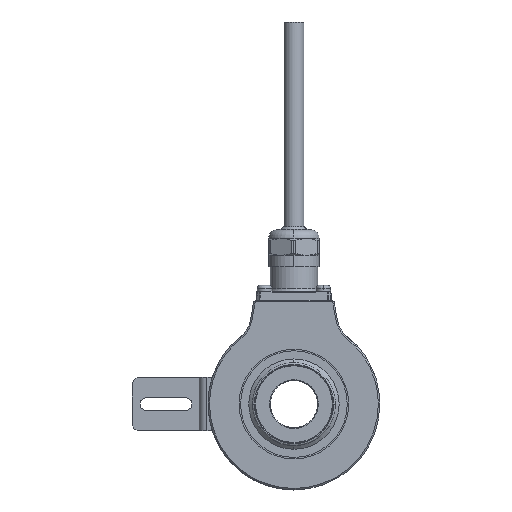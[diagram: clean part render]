
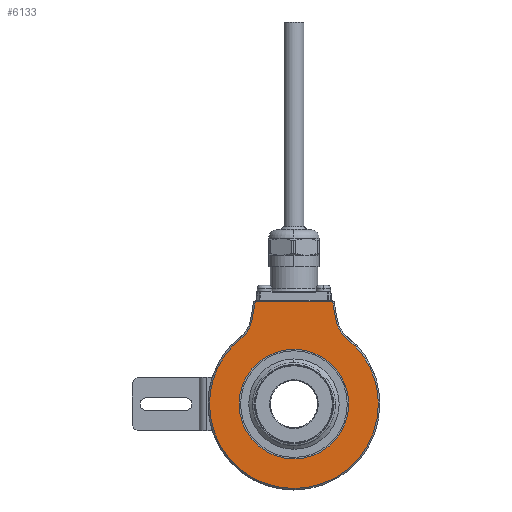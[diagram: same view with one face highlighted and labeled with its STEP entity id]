
A CAD part, left-side view. The second image highlights one B-rep face of the part: STEP entity #6133.
In plain terms, the highlighted planar face has unit normal (-1, 0, 0).
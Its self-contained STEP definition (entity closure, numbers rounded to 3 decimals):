
#363 = DIRECTION ( 'NONE',  ( 1., 0., 0. ) ) ;
#447 = ORIENTED_EDGE ( 'NONE', *, *, #4275, .T. ) ;
#490 = VERTEX_POINT ( 'NONE', #20344 ) ;
#834 = DIRECTION ( 'NONE',  ( 0., -1., 0. ) ) ;
#1557 = CARTESIAN_POINT ( 'NONE',  ( -27., 17.883, 22.191 ) ) ;
#1997 = VECTOR ( 'NONE', #27416, 1000. ) ;
#2751 = ORIENTED_EDGE ( 'NONE', *, *, #28279, .T. ) ;
#2879 = EDGE_CURVE ( 'NONE', #21392, #13663, #23414, .T. ) ;
#3062 = CARTESIAN_POINT ( 'NONE',  ( -27., 18.5, 0. ) ) ;
#3109 = ORIENTED_EDGE ( 'NONE', *, *, #16708, .T. ) ;
#3326 = FACE_BOUND ( 'NONE', #22134, .T. ) ;
#3342 = AXIS2_PLACEMENT_3D ( 'NONE', #6899, #24865, #4693 ) ;
#3476 = VERTEX_POINT ( 'NONE', #13369 ) ;
#4014 = CARTESIAN_POINT ( 'NONE',  ( -27., -17.883, 22.191 ) ) ;
#4052 = DIRECTION ( 'NONE',  ( 0., -1., 0. ) ) ;
#4242 = ORIENTED_EDGE ( 'NONE', *, *, #17627, .T. ) ;
#4258 = VERTEX_POINT ( 'NONE', #3062 ) ;
#4275 = EDGE_CURVE ( 'NONE', #26732, #3476, #28740, .T. ) ;
#4693 = DIRECTION ( 'NONE',  ( 0., -1., 0. ) ) ;
#4928 = CARTESIAN_POINT ( 'NONE',  ( -27., 0., 0. ) ) ;
#5263 = EDGE_CURVE ( 'NONE', #490, #10519, #7081, .T. ) ;
#5890 = DIRECTION ( 'NONE',  ( -1., 0., 0. ) ) ;
#5905 = EDGE_CURVE ( 'NONE', #19106, #21392, #21906, .T. ) ;
#6133 = ADVANCED_FACE ( 'NONE', ( #27936, #3326 ), #14253, .T. ) ;
#6262 = DIRECTION ( 'NONE',  ( 1., 0., 0. ) ) ;
#6356 = ORIENTED_EDGE ( 'NONE', *, *, #5263, .T. ) ;
#6899 = CARTESIAN_POINT ( 'NONE',  ( -27., -24.471, 30.367 ) ) ;
#7071 = DIRECTION ( 'NONE',  ( 0., 1., 0. ) ) ;
#7081 = LINE ( 'NONE', #26977, #1997 ) ;
#7685 = EDGE_LOOP ( 'NONE', ( #20272, #15722, #6356, #2751, #12680, #21654, #3109, #447 ) ) ;
#7799 = CARTESIAN_POINT ( 'NONE',  ( -27., 0., 0. ) ) ;
#7855 = DIRECTION ( 'NONE',  ( 0., 0.174, 0.985 ) ) ;
#9153 = LINE ( 'NONE', #15937, #27376 ) ;
#9292 = CARTESIAN_POINT ( 'NONE',  ( -27., -28.5, 0. ) ) ;
#10497 = CARTESIAN_POINT ( 'NONE',  ( -27., 28.5, 0. ) ) ;
#10519 = VERTEX_POINT ( 'NONE', #28390 ) ;
#10591 = AXIS2_PLACEMENT_3D ( 'NONE', #11158, #6262, #4052 ) ;
#10885 = DIRECTION ( 'NONE',  ( 1., 0., 0. ) ) ;
#11158 = CARTESIAN_POINT ( 'NONE',  ( -27., 24.471, 30.367 ) ) ;
#12296 = CARTESIAN_POINT ( 'NONE',  ( -27., -17.711, 8.236 ) ) ;
#12655 = AXIS2_PLACEMENT_3D ( 'NONE', #24067, #22014, #20110 ) ;
#12680 = ORIENTED_EDGE ( 'NONE', *, *, #5905, .T. ) ;
#13369 = CARTESIAN_POINT ( 'NONE',  ( -27., -14.131, 28.544 ) ) ;
#13663 = VERTEX_POINT ( 'NONE', #9292 ) ;
#13833 = ORIENTED_EDGE ( 'NONE', *, *, #25716, .T. ) ;
#14134 = VERTEX_POINT ( 'NONE', #24495 ) ;
#14253 = PLANE ( 'NONE',  #24269 ) ;
#15204 = VECTOR ( 'NONE', #7855, 1000. ) ;
#15288 = CARTESIAN_POINT ( 'NONE',  ( -27., 0., 0. ) ) ;
#15722 = ORIENTED_EDGE ( 'NONE', *, *, #19739, .T. ) ;
#15937 = CARTESIAN_POINT ( 'NONE',  ( -27., 29., 34.5 ) ) ;
#16708 = EDGE_CURVE ( 'NONE', #13663, #26732, #19698, .T. ) ;
#17033 = CARTESIAN_POINT ( 'NONE',  ( -27., 29., 0. ) ) ;
#17152 = CIRCLE ( 'NONE', #10591, 10.5 ) ;
#17627 = EDGE_CURVE ( 'NONE', #4258, #26105, #24926, .T. ) ;
#18685 = CIRCLE ( 'NONE', #21026, 18.5 ) ;
#18700 = DIRECTION ( 'NONE',  ( -1., 0., 0. ) ) ;
#19106 = VERTEX_POINT ( 'NONE', #1557 ) ;
#19207 = LINE ( 'NONE', #12296, #15204 ) ;
#19698 = CIRCLE ( 'NONE', #12655, 28.5 ) ;
#19739 = EDGE_CURVE ( 'NONE', #14134, #490, #9153, .T. ) ;
#20110 = DIRECTION ( 'NONE',  ( 0., -1., 0. ) ) ;
#20272 = ORIENTED_EDGE ( 'NONE', *, *, #21869, .T. ) ;
#20344 = CARTESIAN_POINT ( 'NONE',  ( -27., 13.08, 34.5 ) ) ;
#20500 = CARTESIAN_POINT ( 'NONE',  ( -27., -18.5, 0. ) ) ;
#20699 = AXIS2_PLACEMENT_3D ( 'NONE', #15288, #10885, #24540 ) ;
#21026 = AXIS2_PLACEMENT_3D ( 'NONE', #4928, #363, #24818 ) ;
#21392 = VERTEX_POINT ( 'NONE', #10497 ) ;
#21654 = ORIENTED_EDGE ( 'NONE', *, *, #2879, .T. ) ;
#21869 = EDGE_CURVE ( 'NONE', #3476, #14134, #19207, .T. ) ;
#21906 = CIRCLE ( 'NONE', #28029, 28.5 ) ;
#22014 = DIRECTION ( 'NONE',  ( -1., 0., 0. ) ) ;
#22134 = EDGE_LOOP ( 'NONE', ( #4242, #13833 ) ) ;
#23414 = CIRCLE ( 'NONE', #24364, 28.5 ) ;
#24067 = CARTESIAN_POINT ( 'NONE',  ( -27., 0., 0. ) ) ;
#24269 = AXIS2_PLACEMENT_3D ( 'NONE', #17033, #28083, #834 ) ;
#24364 = AXIS2_PLACEMENT_3D ( 'NONE', #7799, #5890, #25622 ) ;
#24495 = CARTESIAN_POINT ( 'NONE',  ( -27., -13.08, 34.5 ) ) ;
#24540 = DIRECTION ( 'NONE',  ( 0., 1., 0. ) ) ;
#24818 = DIRECTION ( 'NONE',  ( 0., 1., 0. ) ) ;
#24865 = DIRECTION ( 'NONE',  ( 1., 0., 0. ) ) ;
#24926 = CIRCLE ( 'NONE', #20699, 18.5 ) ;
#25311 = CARTESIAN_POINT ( 'NONE',  ( -27., 0., 0. ) ) ;
#25622 = DIRECTION ( 'NONE',  ( 0., -1., 0. ) ) ;
#25716 = EDGE_CURVE ( 'NONE', #26105, #4258, #18685, .T. ) ;
#26105 = VERTEX_POINT ( 'NONE', #20500 ) ;
#26732 = VERTEX_POINT ( 'NONE', #4014 ) ;
#26977 = CARTESIAN_POINT ( 'NONE',  ( -27., 19.46, -1.682 ) ) ;
#27376 = VECTOR ( 'NONE', #7071, 1000. ) ;
#27416 = DIRECTION ( 'NONE',  ( 0., 0.174, -0.985 ) ) ;
#27665 = DIRECTION ( 'NONE',  ( 0., -1., 0. ) ) ;
#27936 = FACE_OUTER_BOUND ( 'NONE', #7685, .T. ) ;
#28029 = AXIS2_PLACEMENT_3D ( 'NONE', #25311, #18700, #27665 ) ;
#28083 = DIRECTION ( 'NONE',  ( -1., 0., 0. ) ) ;
#28279 = EDGE_CURVE ( 'NONE', #10519, #19106, #17152, .T. ) ;
#28390 = CARTESIAN_POINT ( 'NONE',  ( -27., 14.131, 28.544 ) ) ;
#28740 = CIRCLE ( 'NONE', #3342, 10.5 ) ;
